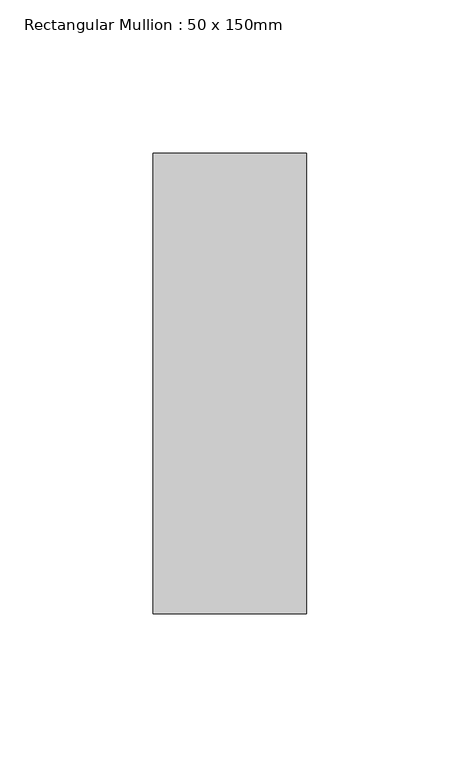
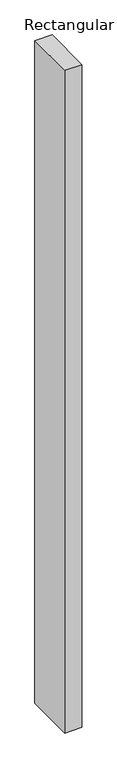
"""IFC4 building model written with IfcOpenShell, lengths in millimetres: member geometry, Rectangular Mullion : 50 x 150mm."""

from ifc_helpers import new_model, si_unit, frame, origin, place, context, project, spatial, polyline, outline, extrude, source, transform, mapped, element, save


def rectangular_mullion_50_x_150mm_b59a5eb5(model_context):
    return source(origin(), model_context, "Body", "SweptSolid", [
        extrude(outline(polyline([(25.0, 75.0), (25.0, -75.0), (-25.0, -75.0), (-25.0, 75.0), (25.0, 75.0)])), frame((0.0, 0.0, -2037.3775876), z_axis=(0.0, 0.0, 1.0), x_axis=(1.0, 0.0, 0.0)), (0.0, 0.0, 1.0), 2037.3775876),
    ])


if __name__ == "__main__":
    model = new_model("IFC4")
    model_context = context("Model", 3, world=origin())
    ifc_project = project(units=[si_unit("LENGTHUNIT", "METRE", prefix="MILLI")], contexts=[model_context])
    site = spatial("IfcSite", under=ifc_project)
    building = spatial("IfcBuilding", under=site)
    placement = place(None, origin())
    rectangular_mullion_50_x_150mm_shape = rectangular_mullion_50_x_150mm_b59a5eb5(model_context)
    element("IfcMember", 1, ObjectType="Rectangular Mullion : 50 x 150mm", at=placement, inside=building, context=model_context, shape_type="MappedRepresentation", body=[
        mapped(rectangular_mullion_50_x_150mm_shape, transform((0.0, 0.0, 0.0), x_axis=(1.0, 0.0, 0.0), y_axis=(0.0, 1.0, 0.0), z_axis=(0.0, 0.0, 1.0))),
    ])
    save(model, "model.ifc")
